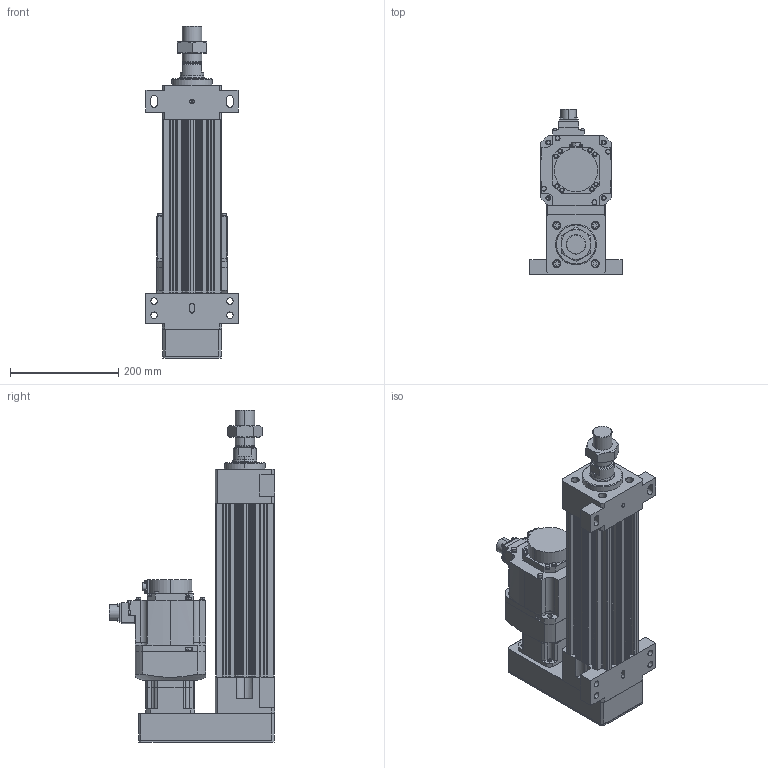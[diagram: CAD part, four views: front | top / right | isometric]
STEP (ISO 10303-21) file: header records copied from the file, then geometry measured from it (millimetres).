
FILE_DESCRIPTION (( 'STEP AP203' ), '1' );
FILE_NAME ('HES110NS(HS)-P150-W010G00-M-FFB.STEP', '2023-01-26T08:48:46', ( 'tms' ), ( '' ), 'SwSTEP 2.0', 'SolidWorks 2013', '' );
FILE_SCHEMA (( 'CONFIG_CONTROL_DESIGN' ));
Length unit declared in the file: millimetre
Products named in the file (8): HES110-P150-G090-FFB; HES110NS(HS)-P150-W010G00-M-FFB; HES110 ROD M ST150; P0401301004; AB090-003[HG-SR102B]; HG-SR102; AB0901; M36X1.5P
Assembly tree (7 placements, depth 3):
  HES110NS(HS)-P150-W010G00-M-FFB
    HES110-P150-G090-FFB
    AB090-003[HG-SR102B]
      AB0901
      P0401301004
    HG-SR102
    HES110 ROD M ST150
    M36X1.5P
Bounding box: 170 x 304.99 x 613 mm (x, y, z)
Volume: 6546556.1 mm3; surface area: 781387.3 mm2
Topology: 4 solids, 11 shells, 1083 faces, 2775 edges, 1806 vertices
Faces by surface type: cylinder 501, plane 500, cone 70, bspline 8, torus 4
Entity records: 34904 total; most frequent: CARTESIAN_POINT 6854, DIRECTION 5982, ORIENTED_EDGE 5502, EDGE_CURVE 2761, AXIS2_PLACEMENT_3D 2205, VERTEX_POINT 1806, LINE 1572, VECTOR 1572
